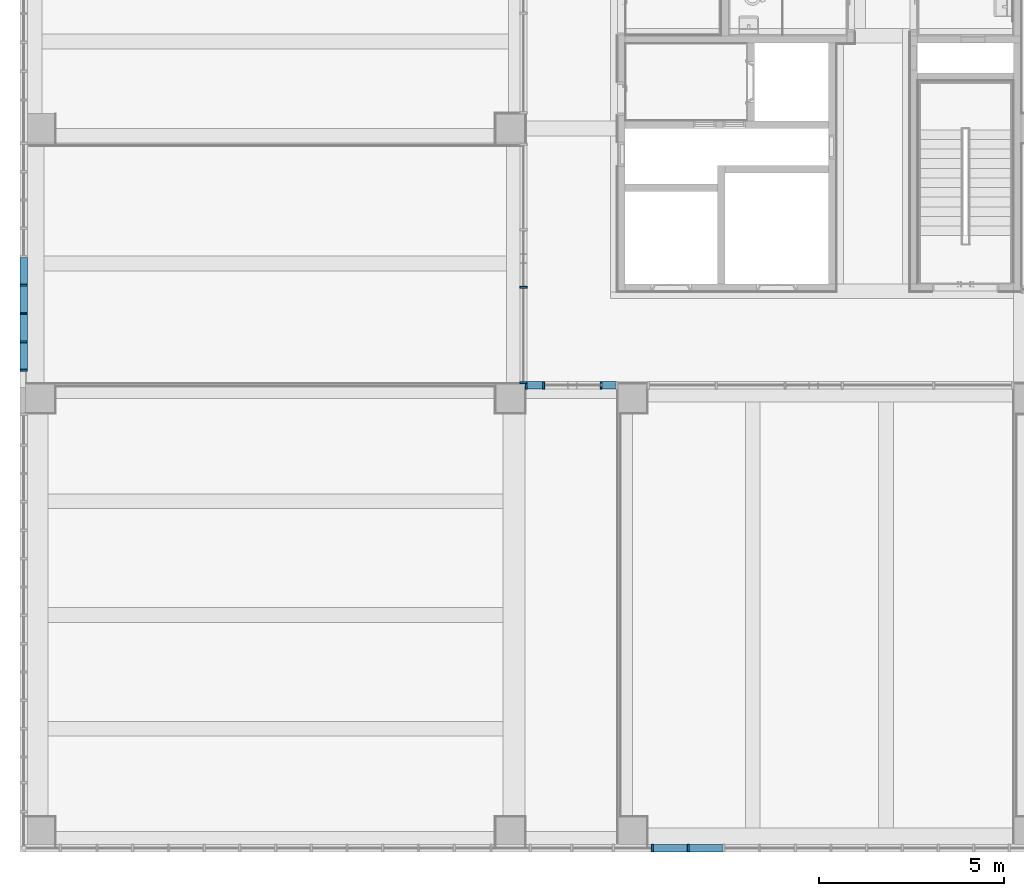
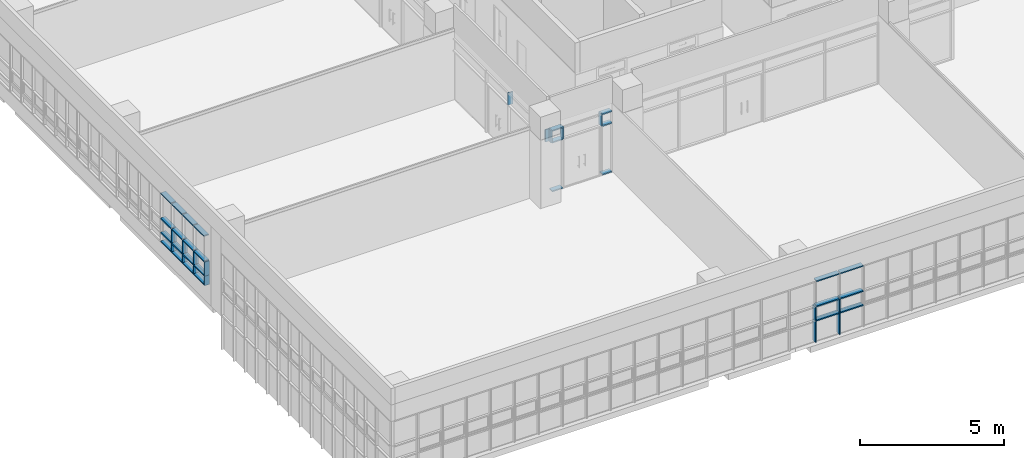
# One storey, part 13 of 81: 47 members, 4 elements without a shape of their own.
"""IFC2X3 building model written with IfcOpenShell, lengths in millimetres."""

import ifcopenshell
import ifcopenshell.guid

model = None  # the IFC model being written
_history = None  # IfcOwnerHistory: only IFC2X3 demands one
_inside = {}  # id of a spatial element -> (the spatial element, [elements in it])
_under = {}  # id of a project, library or spatial element -> (it, [spatial elements below it])
_declared = {}  # id of a project -> (the project, [libraries it declares])
_typed = {}  # id of a type object -> (the type object, [elements of that type])
_made_of = {}  # id of a material, layer set ... -> (it, [elements and type objects made of it])


def new_model(schema):
    """Start an empty IFC model of exactly this schema.

    Asked for "IFC4X3", IfcOpenShell would pick the latest addendum, in which some entities
    have other attributes; the version numbers below select the first issue.
    IFC2X3 requires an IfcOwnerHistory on every rooted entity: one is made here for all.
    """
    global model, _history
    if schema == "IFC4X3":
        model = ifcopenshell.file(schema_version=(4, 3, 0, 0))
    else:
        model = ifcopenshell.file(schema=schema)
    _inside.clear()
    _under.clear()
    _declared.clear()
    _typed.clear()
    _made_of.clear()
    _history = None
    if model.schema == "IFC2X3":
        org = make("IfcOrganization", Name="unknown")
        user = make(
            "IfcPersonAndOrganization",
            ThePerson=make("IfcPerson", FamilyName="unknown"),
            TheOrganization=org,
        )
        app = make(
            "IfcApplication",
            ApplicationDeveloper=org,
            Version="unknown",
            ApplicationFullName="unknown",
            ApplicationIdentifier="unknown",
        )
        _history = make(
            "IfcOwnerHistory",
            OwningUser=user,
            OwningApplication=app,
            ChangeAction="ADDED",
            CreationDate=0,
        )
    return model


def make(cls, **values):
    """One entity of the class cls with the attributes given. An attribute that is None is left unset."""
    return model.create_entity(
        cls, **{name: value for name, value in values.items() if value is not None}
    )


def entity(cls, *values):
    """Any entity or typed value of the class cls, its attributes in the order of the schema. None: left unset."""
    e = model.create_entity(cls)
    for i, value in enumerate(values):
        if value is not None:
            e[i] = value
    return e


def rooted(cls, **values):
    """An entity with a GlobalId (a new one), such as an element, a storey or a relation."""
    return make(cls, GlobalId=ifcopenshell.guid.new(), OwnerHistory=_history, **values)


def si_unit(unit_type, name, prefix=None):
    """IfcSIUnit, for example si_unit("LENGTHUNIT", "METRE", prefix="MILLI")."""
    return make("IfcSIUnit", UnitType=unit_type, Prefix=prefix, Name=name)


def converted_unit(unit_type, name, factor, base, dimensions=None, offset=None):
    """IfcConversionBasedUnit, such as the inch: factor (a typed value) times the base unit."""
    return make(
        "IfcConversionBasedUnit"
        if offset is None
        else "IfcConversionBasedUnitWithOffset",
        ConversionOffset=offset,
        Dimensions=None
        if dimensions is None
        else entity("IfcDimensionalExponents", *dimensions),
        UnitType=unit_type,
        Name=name,
        ConversionFactor=make(
            "IfcMeasureWithUnit", ValueComponent=factor, UnitComponent=base
        ),
    )


def derived_unit(unit_type, elements):
    """IfcDerivedUnit: a product of units, each with its exponent."""
    return make(
        "IfcDerivedUnit",
        Elements=[
            make("IfcDerivedUnitElement", Unit=unit, Exponent=power)
            for unit, power in elements
        ],
        UnitType=unit_type,
    )


def assignment(units):
    """IfcUnitAssignment: the units of a project."""
    return None if units is None else make("IfcUnitAssignment", Units=units)


def point(xyz):
    """IfcCartesianPoint."""
    return None if xyz is None else make("IfcCartesianPoint", Coordinates=xyz)


def direction(xyz):
    """IfcDirection."""
    return None if xyz is None else make("IfcDirection", DirectionRatios=xyz)


def frame(location, z_axis=None, x_axis=None):
    """IfcAxis2Placement3D, a coordinate frame: its origin and axes. An axis left out is left unset."""
    return make(
        "IfcAxis2Placement3D",
        Location=point(location),
        Axis=direction(z_axis),
        RefDirection=direction(x_axis),
    )


def frame_2d(location, x_axis=None):
    """IfcAxis2Placement2D, a coordinate frame in the plane: its origin and x axis."""
    return make(
        "IfcAxis2Placement2D", Location=point(location), RefDirection=direction(x_axis)
    )


def origin():
    """The frame at (0, 0, 0) with its axes left unset."""
    return frame((0.0, 0.0, 0.0))


def origin_2d_with_axis():
    """The frame at (0, 0) in the plane with the x axis (1, 0) written out."""
    return frame_2d((0.0, 0.0), x_axis=(1.0, 0.0))


def place(relative_to, where):
    """IfcLocalPlacement: puts the frame where relative to a parent placement (None: the world)."""
    return make(
        "IfcLocalPlacement", PlacementRelTo=relative_to, RelativePlacement=where
    )


def context(
    kind, dimensions, precision=None, world=None, true_north=None, identifier=None
):
    """IfcGeometricRepresentationContext, for example the 3D "Model" context."""
    return make(
        "IfcGeometricRepresentationContext",
        ContextIdentifier=identifier,
        ContextType=kind,
        CoordinateSpaceDimension=dimensions,
        Precision=precision,
        WorldCoordinateSystem=world,
        TrueNorth=true_north,
    )


def subcontext(parent, identifier, kind, view, scale=None):
    """IfcGeometricRepresentationSubContext, for example "Body" below "Model"."""
    return make(
        "IfcGeometricRepresentationSubContext",
        ContextIdentifier=identifier,
        ContextType=kind,
        ParentContext=parent,
        TargetScale=scale,
        TargetView=view,
    )


def project(units=None, contexts=None):
    """IfcProject with its units and contexts."""
    return rooted(
        "IfcProject",
        Name="project",
        RepresentationContexts=contexts,
        UnitsInContext=assignment(units),
    )


def spatial(cls, under=None, at=None, **own):
    """A site, building, storey or space (cls), placed at a placement, below another one or the project."""
    s = rooted(cls, ObjectPlacement=at, **own)
    if under is not None:
        _under.setdefault(under.id(), (under, []))[1].append(s)
    return s


def profile(cls, at=None, kind="AREA", **sizes):
    """A parametric profile (cls). Its sizes go by their IFC names, for example OverallWidth=200.0."""
    return make(cls, ProfileType=kind, Position=at, **sizes)


def rectangle(**sizes):
    """IfcRectangleProfileDef."""
    return profile("IfcRectangleProfileDef", **sizes)


def extrude(swept, where, along, depth):
    """IfcExtrudedAreaSolid: the profile swept, set in the frame where, extruded along a direction by depth."""
    return make(
        "IfcExtrudedAreaSolid",
        SweptArea=swept,
        Position=where,
        ExtrudedDirection=direction(along),
        Depth=depth,
    )


def shape(context_of_items, identifier, shape_type, items):
    """IfcShapeRepresentation: the items that make up one representation, for example the "Body"."""
    return make(
        "IfcShapeRepresentation",
        ContextOfItems=context_of_items,
        RepresentationIdentifier=identifier,
        RepresentationType=shape_type,
        Items=items,
    )


def source(mapping_origin, context_of_items, identifier, shape_type, items):
    """IfcRepresentationMap: a shape defined once, which mapped items show again and again."""
    return make(
        "IfcRepresentationMap",
        MappingOrigin=mapping_origin,
        MappedRepresentation=shape(context_of_items, identifier, shape_type, items),
    )


def transform(
    local_origin,
    x_axis=None,
    y_axis=None,
    z_axis=None,
    scale=None,
    scale2=None,
    scale3=None,
    uniform=True,
):
    """IfcCartesianTransformationOperator3D, or its non-uniform kind. x_axis, y_axis, z_axis: its Axis1, 2, 3."""
    if uniform:
        return make(
            "IfcCartesianTransformationOperator3D",
            Axis1=direction(x_axis),
            Axis2=direction(y_axis),
            LocalOrigin=point(local_origin),
            Scale=scale,
            Axis3=direction(z_axis),
        )
    return make(
        "IfcCartesianTransformationOperator3DnonUniform",
        Axis1=direction(x_axis),
        Axis2=direction(y_axis),
        LocalOrigin=point(local_origin),
        Scale=scale,
        Axis3=direction(z_axis),
        Scale2=scale2,
        Scale3=scale3,
    )


def mapped(mapping_source, mapping_target):
    """IfcMappedItem: shows the shape of a source again, moved by a transform."""
    return make(
        "IfcMappedItem", MappingSource=mapping_source, MappingTarget=mapping_target
    )


def material(Name=None, Category=None):
    """IfcMaterial."""
    return make("IfcMaterial", Name=Name, Category=Category)


def made_of(thing, what):
    """Note that an element or type object is made of a material, layer set ...; save() writes the relation."""
    if what is not None:
        _made_of.setdefault(what.id(), (what, []))[1].append(thing)
    return thing


def type_object(cls, material=None, **own):
    """A type object (cls), such as IfcWallType, which elements share."""
    return made_of(rooted(cls, **own), material)


def type_shapes(of_type, sources):
    """Give a type object the sources (RepresentationMaps) that its elements show as mapped items."""
    of_type.RepresentationMaps = sources


def element(
    cls,
    number,
    at=None,
    inside=None,
    cuts=None,
    type_object=None,
    material=None,
    context=None,
    identifier="Body",
    shape_type=None,
    held_by="IfcProductDefinitionShape",
    body=None,
    shapes=None,
    **own,
):
    """One element of the class cls, such as IfcWall. Its Tag is "e" and its number.

    at: its placement. inside: the storey or other place that contains it. cuts: it is an
    opening in that element (IfcRelVoidsElement). A single representation is given by context,
    identifier, shape_type and body (its items); several are given by shapes. held_by: the class
    of the entity that holds the representations. save() writes the other relations.
    """
    e = rooted(cls, Tag="e%d" % number, ObjectPlacement=at, **own)
    if body is not None:
        shapes = [shape(context, identifier, shape_type, body)]
    if shapes is not None:
        e.Representation = make(held_by, Representations=shapes)
    if inside is not None:
        _inside.setdefault(inside.id(), (inside, []))[1].append(e)
    if cuts is not None:
        rooted(
            "IfcRelVoidsElement", RelatingBuildingElement=cuts, RelatedOpeningElement=e
        )
    if type_object is not None:
        _typed.setdefault(type_object.id(), (type_object, []))[1].append(e)
    return made_of(e, material)


def aggregate(whole, parts):
    """IfcRelAggregates: a whole, such as a stair, and the parts it consists of."""
    return rooted("IfcRelAggregates", RelatingObject=whole, RelatedObjects=parts)


def save(model, path):
    """Write the relations noted so far, then the file.

    IfcRelAggregates (storeys below a building ...), IfcRelContainedInSpatialStructure (elements
    in a storey), IfcRelDefinesByType, IfcRelAssociatesMaterial and IfcRelDeclares: one each for
    every whole, place, type object, material and project.
    """
    for whole, parts in _under.values():
        aggregate(whole, parts)
    for where, things in _inside.values():
        rooted(
            "IfcRelContainedInSpatialStructure",
            RelatedElements=things,
            RelatingStructure=where,
        )
    for kind, things in _typed.values():
        rooted("IfcRelDefinesByType", RelatedObjects=things, RelatingType=kind)
    for what, things in _made_of.values():
        rooted("IfcRelAssociatesMaterial", RelatedObjects=things, RelatingMaterial=what)
    for by, libraries in _declared.values():
        rooted("IfcRelDeclares", RelatingContext=by, RelatedDefinitions=libraries)
    model.write(path)


model = new_model("IFC2X3")

# Units and contexts
model_context = context("Model", 3, precision=0.01, world=origin(), true_north=direction((6.123031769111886e-17, 1.0)))
body_context = subcontext(model_context, "Body", "Model", "MODEL_VIEW")
ifc_project = project(units=[si_unit("LENGTHUNIT", "METRE", prefix="MILLI"), si_unit("AREAUNIT", "SQUARE_METRE"), si_unit("VOLUMEUNIT", "CUBIC_METRE"), converted_unit("PLANEANGLEUNIT", "DEGREE", entity("IfcRatioMeasure", 0.017453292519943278), si_unit("PLANEANGLEUNIT", "RADIAN"), dimensions=[0, 0, 0, 0, 0, 0, 0]), si_unit("MASSUNIT", "GRAM", prefix="KILO"), derived_unit("MASSDENSITYUNIT", [(si_unit("MASSUNIT", "GRAM", prefix="KILO"), 1), (si_unit("LENGTHUNIT", "METRE"), -3)]), derived_unit("MOMENTOFINERTIAUNIT", [(si_unit("LENGTHUNIT", "METRE"), 4)]), si_unit("TIMEUNIT", "SECOND"), si_unit("FREQUENCYUNIT", "HERTZ"), si_unit("THERMODYNAMICTEMPERATUREUNIT", "DEGREE_CELSIUS"), derived_unit("THERMALTRANSMITTANCEUNIT", [(si_unit("MASSUNIT", "GRAM", prefix="KILO"), 1), (si_unit("THERMODYNAMICTEMPERATUREUNIT", "KELVIN"), -1), (si_unit("TIMEUNIT", "SECOND"), -3)]), derived_unit("VOLUMETRICFLOWRATEUNIT", [(si_unit("LENGTHUNIT", "METRE"), 3), (si_unit("TIMEUNIT", "SECOND"), -1)]), derived_unit("MASSFLOWRATEUNIT", [(si_unit("MASSUNIT", "GRAM", prefix="KILO"), 1), (si_unit("TIMEUNIT", "SECOND"), -1)]), derived_unit("ROTATIONALFREQUENCYUNIT", [(si_unit("TIMEUNIT", "SECOND"), -1)]), si_unit("ELECTRICCURRENTUNIT", "AMPERE"), si_unit("ELECTRICVOLTAGEUNIT", "VOLT"), si_unit("POWERUNIT", "WATT"), si_unit("FORCEUNIT", "NEWTON", prefix="KILO"), si_unit("ILLUMINANCEUNIT", "LUX"), si_unit("LUMINOUSFLUXUNIT", "LUMEN"), si_unit("LUMINOUSINTENSITYUNIT", "CANDELA"), derived_unit("USERDEFINED", [(si_unit("MASSUNIT", "GRAM", prefix="KILO"), -1), (si_unit("LENGTHUNIT", "METRE"), -2), (si_unit("TIMEUNIT", "SECOND"), 3), (si_unit("LUMINOUSFLUXUNIT", "LUMEN"), 1)]), derived_unit("SOUNDPOWERUNIT", [(si_unit("MASSUNIT", "GRAM", prefix="KILO"), 1), (si_unit("LENGTHUNIT", "METRE"), 2), (si_unit("TIMEUNIT", "SECOND"), -3)]), derived_unit("SOUNDPRESSUREUNIT", [(si_unit("MASSUNIT", "GRAM", prefix="KILO"), 1), (si_unit("LENGTHUNIT", "METRE"), -1), (si_unit("TIMEUNIT", "SECOND"), -2)]), derived_unit("LINEARVELOCITYUNIT", [(si_unit("LENGTHUNIT", "METRE"), 1), (si_unit("TIMEUNIT", "SECOND"), -1)]), si_unit("PRESSUREUNIT", "PASCAL"), derived_unit("USERDEFINED", [(si_unit("LENGTHUNIT", "METRE"), -2), (si_unit("MASSUNIT", "GRAM", prefix="KILO"), 1), (si_unit("TIMEUNIT", "SECOND"), -2)]), derived_unit("LINEARFORCEUNIT", [(si_unit("MASSUNIT", "GRAM", prefix="KILO"), 1), (si_unit("LENGTHUNIT", "METRE"), 1), (si_unit("TIMEUNIT", "SECOND"), -2), (si_unit("LENGTHUNIT", "METRE"), -1)]), derived_unit("PLANARFORCEUNIT", [(si_unit("MASSUNIT", "GRAM", prefix="KILO"), 1), (si_unit("LENGTHUNIT", "METRE"), 1), (si_unit("TIMEUNIT", "SECOND"), -2), (si_unit("LENGTHUNIT", "METRE"), -2)])], contexts=[model_context])

# Site, building, storey
site_placement = place(None, frame((-14167.972527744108, -657.2125860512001, 0.0)))
site = spatial("IfcSite", under=ifc_project, at=site_placement, Name="Default", CompositionType="ELEMENT")
building_placement = place(site_placement, origin())
building = spatial("IfcBuilding", under=site, at=building_placement, Name="Sample Building", CompositionType="ELEMENT")
storey_placement = place(building_placement, frame((0.0, 0.0, 13400.0)))
storey = spatial("IfcBuildingStorey", under=building, at=storey_placement, Name="지상 4층", CompositionType="ELEMENT", Elevation=13400.00000000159)

# Curtain wall, members
curtain_wall_type = type_object("IfcCurtainWallType", Name="커튼월:CW112-스테인리스 스틸 커튼월", PredefinedType="NOTDEFINED")
curtain_wall_1_placement = place(storey_placement, frame((0.0, 0.0, -13400.0)))
curtain_wall_1 = element("IfcCurtainWall", 1, at=curtain_wall_1_placement, inside=storey, type_object=curtain_wall_type, Name="커튼월:CW112-스테인리스 스틸 커튼월", ObjectType="커튼월:CW112-스테인리스 스틸 커튼월")
ifc_material = material(Name="<Unnamed>")
member_type_1 = type_object("IfcMemberType", Name="직사각형 멀리언:CW200-직사각형 멀리언 50x200mm", PredefinedType="MULLION", material=ifc_material)
shared_shape_1 = source(origin(), body_context, "Body", "SweptSolid", [
    extrude(rectangle(XDim=200.0, YDim=50.0, at=origin_2d_with_axis()), frame((0.0, 0.0, -600.0), z_axis=(0.0, 0.0, 1.0), x_axis=(0.0, -1.0, 0.0)), (0.0, 0.0, 1.0), 600.0),
])
type_shapes(member_type_1, [shared_shape_1])
member_1_placement = place(curtain_wall_1_placement, frame((14018.570555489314, 15721.31770709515, 14400.0), z_axis=(0.0, 0.0, -1.0), x_axis=(0.0, -1.0, 0.0)))
member_1 = element("IfcMember", 2, at=member_1_placement, type_object=member_type_1, material=ifc_material, Name="직사각형 멀리언:CW200-직사각형 멀리언 50x200mm", ObjectType="직사각형 멀리언:CW200-직사각형 멀리언 50x200mm", context=body_context, shape_type="MappedRepresentation", body=[
    mapped(shared_shape_1, transform((0.0, 0.0, 0.0), scale=1.0)),
])
member_2_placement = place(curtain_wall_1_placement, frame((14018.570555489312, 14954.817707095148, 14400.0), z_axis=(0.0, 0.0, -1.0), x_axis=(0.0, -1.0, 0.0)))
member_2 = element("IfcMember", 3, at=member_2_placement, type_object=member_type_1, material=ifc_material, Name="직사각형 멀리언:CW200-직사각형 멀리언 50x200mm", ObjectType="직사각형 멀리언:CW200-직사각형 멀리언 50x200mm", context=body_context, shape_type="MappedRepresentation", body=[
    mapped(shared_shape_1, transform((0.0, 0.0, 0.0), scale=1.0)),
])
member_3_placement = place(curtain_wall_1_placement, frame((14018.57055548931, 14188.317707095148, 14400.0), z_axis=(0.0, 0.0, -1.0), x_axis=(0.0, -1.0, 0.0)))
member_3 = element("IfcMember", 4, at=member_3_placement, type_object=member_type_1, material=ifc_material, Name="직사각형 멀리언:CW200-직사각형 멀리언 50x200mm", ObjectType="직사각형 멀리언:CW200-직사각형 멀리언 50x200mm", context=body_context, shape_type="MappedRepresentation", body=[
    mapped(shared_shape_1, transform((0.0, 0.0, 0.0), scale=1.0)),
])
member_4_placement = place(curtain_wall_1_placement, frame((14018.57055548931, 13421.817707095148, 14400.0), z_axis=(0.0, 0.0, -1.0), x_axis=(0.0, -1.0, 0.0)))
member_4 = element("IfcMember", 5, at=member_4_placement, type_object=member_type_1, material=ifc_material, Name="직사각형 멀리언:CW200-직사각형 멀리언 50x200mm", ObjectType="직사각형 멀리언:CW200-직사각형 멀리언 50x200mm", context=body_context, shape_type="MappedRepresentation", body=[
    mapped(shared_shape_1, transform((0.0, 0.0, 0.0), scale=1.0)),
])

curtain_wall_2_placement = place(storey_placement, frame((0.0, 0.0, -13400.0)))
curtain_wall_2 = element("IfcCurtainWall", 6, at=curtain_wall_2_placement, inside=storey, type_object=curtain_wall_type, Name="커튼월:CW112-스테인리스 스틸 커튼월", ObjectType="커튼월:CW112-스테인리스 스틸 커튼월")
member_5_placement = place(curtain_wall_2_placement, frame((31005.156070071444, 507.2122951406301, 14400.0), z_axis=(0.0, 0.0, -1.0), x_axis=(1.0, 0.0, 0.0)))
member_5 = element("IfcMember", 7, at=member_5_placement, type_object=member_type_1, material=ifc_material, Name="직사각형 멀리언:CW200-직사각형 멀리언 50x200mm", ObjectType="직사각형 멀리언:CW200-직사각형 멀리언 50x200mm", context=body_context, shape_type="MappedRepresentation", body=[
    mapped(shared_shape_1, transform((0.0, 0.0, 0.0), scale=1.0)),
])
member_6_placement = place(curtain_wall_2_placement, frame((31970.156070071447, 507.21229514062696, 14400.0), z_axis=(0.0, 0.0, -1.0), x_axis=(1.0, 0.0, 0.0)))
member_6 = element("IfcMember", 8, at=member_6_placement, type_object=member_type_1, material=ifc_material, Name="직사각형 멀리언:CW200-직사각형 멀리언 50x200mm", ObjectType="직사각형 멀리언:CW200-직사각형 멀리언 50x200mm", context=body_context, shape_type="MappedRepresentation", body=[
    mapped(shared_shape_1, transform((0.0, 0.0, 0.0), scale=1.0)),
])

curtain_wall_3_placement = place(storey_placement, frame((0.0, 0.0, -13400.0)))
curtain_wall_3 = element("IfcCurtainWall", 9, at=curtain_wall_3_placement, inside=storey, type_object=curtain_wall_type, Name="커튼월:CW112-스테인리스 스틸 커튼월", ObjectType="커튼월:CW112-스테인리스 스틸 커튼월")
member_type_2 = type_object("IfcMemberType", Name="직사각형 멀리언:CW200-직사각형 멀리언 50x200mm", PredefinedType="MULLION", material=ifc_material)
shared_shape_2 = source(origin(), body_context, "Body", "SweptSolid", [
    extrude(rectangle(XDim=200.0, YDim=50.0, at=origin_2d_with_axis()), frame((-25.0, 0.0, -520.0), z_axis=(0.0, 0.0, 1.0), x_axis=(0.0, -1.0, 0.0)), (0.0, 0.0, 1.0), 520.0000000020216),
])
type_shapes(member_type_2, [shared_shape_2])
member_7_placement = place(curtain_wall_3_placement, frame((27522.95510516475, 13057.21261703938, 15580.0), z_axis=(0.0, 0.0, -1.0), x_axis=(0.0, -1.0, 0.0)))
member_7 = element("IfcMember", 10, at=member_7_placement, type_object=member_type_2, material=ifc_material, Name="직사각형 멀리언:CW200-직사각형 멀리언 50x200mm", ObjectType="직사각형 멀리언:CW200-직사각형 멀리언 50x200mm", context=body_context, shape_type="MappedRepresentation", body=[
    mapped(shared_shape_2, transform((0.0, 0.0, 0.0), scale=1.0)),
])
member_type_3 = type_object("IfcMemberType", Name="직사각형 멀리언:CW200-직사각형 멀리언 50x200mm", PredefinedType="MULLION", material=ifc_material)
shared_shape_3 = source(origin(), body_context, "Body", "SweptSolid", [
    extrude(rectangle(XDim=200.0, YDim=50.0, at=origin_2d_with_axis()), frame((0.0, 0.0, -520.0), z_axis=(0.0, 0.0, 1.0), x_axis=(0.0, -1.0, 0.0)), (0.0, 0.0, 1.0), 520.0000000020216),
])
type_shapes(member_type_3, [shared_shape_3])
member_8_placement = place(curtain_wall_3_placement, frame((27522.955105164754, 15667.177624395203, 15580.0), z_axis=(0.0, 0.0, -1.0), x_axis=(0.0, -1.0, 0.0)))
member_8 = element("IfcMember", 11, at=member_8_placement, type_object=member_type_3, material=ifc_material, Name="직사각형 멀리언:CW200-직사각형 멀리언 50x200mm", ObjectType="직사각형 멀리언:CW200-직사각형 멀리언 50x200mm", context=body_context, shape_type="MappedRepresentation", body=[
    mapped(shared_shape_3, transform((0.0, 0.0, 0.0), scale=1.0)),
])
aggregate(curtain_wall_3, [member_7, member_8])

curtain_wall_4_placement = place(storey_placement, frame((0.0, 0.0, -13400.0)))
curtain_wall_4 = element("IfcCurtainWall", 12, at=curtain_wall_4_placement, inside=storey, type_object=curtain_wall_type, Name="커튼월:CW112-스테인리스 스틸 커튼월", ObjectType="커튼월:CW112-스테인리스 스틸 커튼월")
member_type_4 = type_object("IfcMemberType", Name="직사각형 멀리언:CW200-직사각형 멀리언 50x200mm", PredefinedType="MULLION", material=ifc_material)
shared_shape_4 = source(origin(), body_context, "Body", "SweptSolid", [
    extrude(rectangle(XDim=200.0, YDim=50.0, at=origin_2d_with_axis()), frame((-25.0, 0.0, -423.1454999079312), z_axis=(0.0, 0.0, 1.0), x_axis=(0.0, -1.0, 0.0)), (0.0, 0.0, 1.0), 423.1454999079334),
])
type_shapes(member_type_4, [shared_shape_4])
member_9_placement = place(curtain_wall_4_placement, frame((27617.920421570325, 13012.212307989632, 16100.0), z_axis=(-1.0, 0.0, 0.0), x_axis=(0.0, 0.0, 1.0)))
member_9 = element("IfcMember", 13, at=member_9_placement, type_object=member_type_4, material=ifc_material, Name="직사각형 멀리언:CW200-직사각형 멀리언 50x200mm", ObjectType="직사각형 멀리언:CW200-직사각형 멀리언 50x200mm", context=body_context, shape_type="MappedRepresentation", body=[
    mapped(shared_shape_4, transform((0.0, 0.0, 0.0), scale=1.0)),
])
member_type_5 = type_object("IfcMemberType", Name="직사각형 멀리언:CW200-직사각형 멀리언 50x200mm", PredefinedType="MULLION", material=ifc_material)
shared_shape_5 = source(origin(), body_context, "Body", "SweptSolid", [
    extrude(rectangle(XDim=200.0, YDim=50.0, at=origin_2d_with_axis()), frame((-25.0, 0.0, -376.8292998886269), z_axis=(0.0, 0.0, 1.0), x_axis=(0.0, -1.0, 0.0)), (0.0, 0.0, 1.0), 376.82929988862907),
])
type_shapes(member_type_5, [shared_shape_5])
member_10_placement = place(curtain_wall_4_placement, frame((30017.95511434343, 13012.212307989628, 13480.0), z_axis=(1.0, 0.0, 0.0), x_axis=(0.0, 0.0, -1.0)))
member_10 = element("IfcMember", 14, at=member_10_placement, type_object=member_type_5, material=ifc_material, Name="직사각형 멀리언:CW200-직사각형 멀리언 50x200mm", ObjectType="직사각형 멀리언:CW200-직사각형 멀리언 50x200mm", context=body_context, shape_type="MappedRepresentation", body=[
    mapped(shared_shape_5, transform((0.0, 0.0, 0.0), scale=1.0)),
])
member_type_6 = type_object("IfcMemberType", Name="직사각형 멀리언:CW200-직사각형 멀리언 50x200mm", PredefinedType="MULLION", material=ifc_material)
shared_shape_6 = source(origin(), body_context, "Body", "SweptSolid", [
    extrude(rectangle(XDim=200.0, YDim=50.0, at=origin_2d_with_axis()), frame((0.0, 0.0, -376.8466492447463), z_axis=(0.0, 0.0, 1.0), x_axis=(0.0, -1.0, 0.0)), (0.0, 0.0, 1.0), 376.8466492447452),
])
type_shapes(member_type_6, [shared_shape_6])
member_11_placement = place(curtain_wall_4_placement, frame((29641.09113086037, 13012.212307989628, 15580.0), z_axis=(-1.0, 0.0, 0.0), x_axis=(0.0, 0.0, 1.0)))
member_11 = element("IfcMember", 15, at=member_11_placement, type_object=member_type_6, material=ifc_material, Name="직사각형 멀리언:CW200-직사각형 멀리언 50x200mm", ObjectType="직사각형 멀리언:CW200-직사각형 멀리언 50x200mm", context=body_context, shape_type="MappedRepresentation", body=[
    mapped(shared_shape_6, transform((0.0, 0.0, 0.0), scale=1.0)),
])
member_type_7 = type_object("IfcMemberType", Name="직사각형 멀리언:CW200-직사각형 멀리언 50x200mm", PredefinedType="MULLION", material=ifc_material)
shared_shape_7 = source(origin(), body_context, "Body", "SweptSolid", [
    extrude(rectangle(XDim=200.0, YDim=50.0, at=origin_2d_with_axis()), frame((-25.0, 0.0, -376.8466492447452), z_axis=(0.0, 0.0, 1.0), x_axis=(0.0, -1.0, 0.0)), (0.0, 0.0, 1.0), 376.8466492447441),
])
type_shapes(member_type_7, [shared_shape_7])
member_12_placement = place(curtain_wall_4_placement, frame((29641.09113086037, 13012.212307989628, 16100.0), z_axis=(-1.0, 0.0, 0.0), x_axis=(0.0, 0.0, 1.0)))
member_12 = element("IfcMember", 16, at=member_12_placement, type_object=member_type_7, material=ifc_material, Name="직사각형 멀리언:CW200-직사각형 멀리언 50x200mm", ObjectType="직사각형 멀리언:CW200-직사각형 멀리언 50x200mm", context=body_context, shape_type="MappedRepresentation", body=[
    mapped(shared_shape_7, transform((0.0, 0.0, 0.0), scale=1.0)),
])
member_type_8 = type_object("IfcMemberType", Name="직사각형 멀리언:CW200-직사각형 멀리언 50x200mm", PredefinedType="MULLION", material=ifc_material)
shared_shape_8 = source(origin(), body_context, "Body", "SweptSolid", [
    extrude(rectangle(XDim=200.0, YDim=50.0, at=origin_2d_with_axis()), frame((-25.0, 0.0, -423.1454999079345), z_axis=(0.0, 0.0, 1.0), x_axis=(0.0, -1.0, 0.0)), (0.0, 0.0, 1.0), 423.1454999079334),
])
type_shapes(member_type_8, [shared_shape_8])
member_13_placement = place(curtain_wall_4_placement, frame((28041.091130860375, 13012.21230798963, 13480.0), z_axis=(1.0, 0.0, 0.0), x_axis=(0.0, 0.0, -1.0)))
member_13 = element("IfcMember", 17, at=member_13_placement, type_object=member_type_8, material=ifc_material, Name="직사각형 멀리언:CW200-직사각형 멀리언 50x200mm", ObjectType="직사각형 멀리언:CW200-직사각형 멀리언 50x200mm", context=body_context, shape_type="MappedRepresentation", body=[
    mapped(shared_shape_8, transform((0.0, 0.0, 0.0), scale=1.0)),
])
member_type_9 = type_object("IfcMemberType", Name="직사각형 멀리언:CW200-직사각형 멀리언 50x200mm", PredefinedType="MULLION", material=ifc_material)
shared_shape_9 = source(origin(), body_context, "Body", "SweptSolid", [
    extrude(rectangle(XDim=200.0, YDim=50.0, at=origin_2d_with_axis()), frame((0.0, 0.0, -423.1454999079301), z_axis=(0.0, 0.0, 1.0), x_axis=(0.0, -1.0, 0.0)), (0.0, 0.0, 1.0), 423.1454999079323),
])
type_shapes(member_type_9, [shared_shape_9])
member_14_placement = place(curtain_wall_4_placement, frame((27617.920421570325, 13012.212307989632, 15580.0), z_axis=(-1.0, 0.0, 0.0), x_axis=(0.0, 0.0, 1.0)))
member_14 = element("IfcMember", 18, at=member_14_placement, type_object=member_type_9, material=ifc_material, Name="직사각형 멀리언:CW200-직사각형 멀리언 50x200mm", ObjectType="직사각형 멀리언:CW200-직사각형 멀리언 50x200mm", context=body_context, shape_type="MappedRepresentation", body=[
    mapped(shared_shape_9, transform((0.0, 0.0, 0.0), scale=1.0)),
])
member_type_10 = type_object("IfcMemberType", Name="직사각형 멀리언:CW200-직사각형 멀리언 50x200mm", PredefinedType="MULLION", material=ifc_material)
shared_shape_10 = source(origin(), body_context, "Body", "SweptSolid", [
    extrude(rectangle(XDim=200.0, YDim=50.0, at=origin_2d_with_axis()), frame((-25.0, 0.0, -520.0), z_axis=(0.0, 0.0, 1.0), x_axis=(0.0, -1.0, 0.0)), (0.0, 0.0, 1.0), 520.0000000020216),
])
type_shapes(member_type_10, [shared_shape_10])
member_15_placement = place(curtain_wall_4_placement, frame((27567.92042157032, 13012.212307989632, 15580.0), z_axis=(0.0, 0.0, -1.0), x_axis=(-1.0, 0.0, 0.0)))
member_15 = element("IfcMember", 19, at=member_15_placement, type_object=member_type_10, material=ifc_material, Name="직사각형 멀리언:CW200-직사각형 멀리언 50x200mm", ObjectType="직사각형 멀리언:CW200-직사각형 멀리언 50x200mm", context=body_context, shape_type="MappedRepresentation", body=[
    mapped(shared_shape_10, transform((0.0, 0.0, 0.0), scale=1.0)),
])
member_type_11 = type_object("IfcMemberType", Name="직사각형 멀리언:CW200-직사각형 멀리언 50x200mm", PredefinedType="MULLION", material=ifc_material)
shared_shape_11 = source(origin(), body_context, "Body", "SweptSolid", [
    extrude(rectangle(XDim=200.0, YDim=50.0, at=origin_2d_with_axis()), frame((0.0, 0.0, -520.0), z_axis=(0.0, 0.0, 1.0), x_axis=(0.0, -1.0, 0.0)), (0.0, 0.0, 1.0), 520.0000000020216),
])
type_shapes(member_type_11, [shared_shape_11])
member_16_placement = place(curtain_wall_4_placement, frame((29616.09113086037, 13012.212307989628, 15580.0), z_axis=(0.0, 0.0, -1.0), x_axis=(-1.0, 0.0, 0.0)))
member_16 = element("IfcMember", 20, at=member_16_placement, type_object=member_type_11, material=ifc_material, Name="직사각형 멀리언:CW200-직사각형 멀리언 50x200mm", ObjectType="직사각형 멀리언:CW200-직사각형 멀리언 50x200mm", context=body_context, shape_type="MappedRepresentation", body=[
    mapped(shared_shape_11, transform((0.0, 0.0, 0.0), scale=1.0)),
])
member_17_placement = place(curtain_wall_4_placement, frame((28066.091130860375, 13012.21230798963, 15580.0), z_axis=(0.0, 0.0, -1.0), x_axis=(-1.0, 0.0, 0.0)))
member_17 = element("IfcMember", 21, at=member_17_placement, type_object=member_type_11, material=ifc_material, Name="직사각형 멀리언:CW200-직사각형 멀리언 50x200mm", ObjectType="직사각형 멀리언:CW200-직사각형 멀리언 50x200mm", context=body_context, shape_type="MappedRepresentation", body=[
    mapped(shared_shape_11, transform((0.0, 0.0, 0.0), scale=1.0)),
])
aggregate(curtain_wall_4, [member_9, member_10, member_15, member_11, member_12, member_16, member_13, member_14, member_17])

# Member
member_type_12 = type_object("IfcMemberType", Name="직사각형 멀리언:CW200-직사각형 멀리언 50x200mm", PredefinedType="MULLION", material=ifc_material)
shared_shape_12 = source(origin(), body_context, "Body", "SweptSolid", [
    extrude(rectangle(XDim=200.0, YDim=50.0, at=origin_2d_with_axis()), frame((-25.0, 0.0, -400.0), z_axis=(0.0, 0.0, 1.0), x_axis=(0.0, -1.0, 0.0)), (0.0, 0.0, 1.0), 399.9999999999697),
])
type_shapes(member_type_12, [shared_shape_12])
member_18_placement = place(curtain_wall_1_placement, frame((14018.57055548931, 13396.817707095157, 14000.0), z_axis=(0.0, 0.0, -1.0), x_axis=(0.0, -1.0, 0.0)))
member_18 = element("IfcMember", 22, at=member_18_placement, type_object=member_type_12, material=ifc_material, Name="직사각형 멀리언:CW200-직사각형 멀리언 50x200mm", ObjectType="직사각형 멀리언:CW200-직사각형 멀리언 50x200mm", context=body_context, shape_type="MappedRepresentation", body=[
    mapped(shared_shape_12, transform((0.0, 0.0, 0.0), scale=1.0)),
])

member_type_13 = type_object("IfcMemberType", Name="직사각형 멀리언:CW200-직사각형 멀리언 50x200mm", PredefinedType="MULLION", material=ifc_material)
shared_shape_13 = source(origin(), body_context, "Body", "SweptSolid", [
    extrude(rectangle(XDim=200.0, YDim=50.0, at=origin_2d_with_axis()), frame((-25.0, 0.0, -600.0), z_axis=(0.0, 0.0, 1.0), x_axis=(0.0, -1.0, 0.0)), (0.0, 0.0, 1.0), 600.0),
])
type_shapes(member_type_13, [shared_shape_13])
member_19_placement = place(curtain_wall_1_placement, frame((14018.57055548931, 13396.817707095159, 14400.0), z_axis=(0.0, 0.0, -1.0), x_axis=(0.0, -1.0, 0.0)))
member_19 = element("IfcMember", 23, at=member_19_placement, type_object=member_type_13, material=ifc_material, Name="직사각형 멀리언:CW200-직사각형 멀리언 50x200mm", ObjectType="직사각형 멀리언:CW200-직사각형 멀리언 50x200mm", context=body_context, shape_type="MappedRepresentation", body=[
    mapped(shared_shape_13, transform((0.0, 0.0, 0.0), scale=1.0)),
])

member_type_14 = type_object("IfcMemberType", Name="직사각형 멀리언:CW200-직사각형 멀리언 50x200mm", PredefinedType="MULLION", material=ifc_material)
shared_shape_14 = source(origin(), body_context, "Body", "SweptSolid", [
    extrude(rectangle(XDim=200.0, YDim=50.0, at=origin_2d_with_axis()), frame((0.0, 0.0, -400.0), z_axis=(0.0, 0.0, 1.0), x_axis=(0.0, -1.0, 0.0)), (0.0, 0.0, 1.0), 399.9999999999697),
])
type_shapes(member_type_14, [shared_shape_14])
member_20_placement = place(curtain_wall_1_placement, frame((14018.570555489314, 15721.31770709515, 14000.0), z_axis=(0.0, 0.0, -1.0), x_axis=(0.0, -1.0, 0.0)))
member_20 = element("IfcMember", 24, at=member_20_placement, type_object=member_type_14, material=ifc_material, Name="직사각형 멀리언:CW200-직사각형 멀리언 50x200mm", ObjectType="직사각형 멀리언:CW200-직사각형 멀리언 50x200mm", context=body_context, shape_type="MappedRepresentation", body=[
    mapped(shared_shape_14, transform((0.0, 0.0, 0.0), scale=1.0)),
])

member_21_placement = place(curtain_wall_1_placement, frame((14018.570555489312, 14954.817707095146, 14000.0), z_axis=(0.0, 0.0, -1.0), x_axis=(0.0, -1.0, 0.0)))
member_21 = element("IfcMember", 25, at=member_21_placement, type_object=member_type_14, material=ifc_material, Name="직사각형 멀리언:CW200-직사각형 멀리언 50x200mm", ObjectType="직사각형 멀리언:CW200-직사각형 멀리언 50x200mm", context=body_context, shape_type="MappedRepresentation", body=[
    mapped(shared_shape_14, transform((0.0, 0.0, 0.0), scale=1.0)),
])

member_22_placement = place(curtain_wall_1_placement, frame((14018.57055548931, 14188.317707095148, 14000.0), z_axis=(0.0, 0.0, -1.0), x_axis=(0.0, -1.0, 0.0)))
member_22 = element("IfcMember", 26, at=member_22_placement, type_object=member_type_14, material=ifc_material, Name="직사각형 멀리언:CW200-직사각형 멀리언 50x200mm", ObjectType="직사각형 멀리언:CW200-직사각형 멀리언 50x200mm", context=body_context, shape_type="MappedRepresentation", body=[
    mapped(shared_shape_14, transform((0.0, 0.0, 0.0), scale=1.0)),
])

member_23_placement = place(curtain_wall_1_placement, frame((14018.57055548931, 13421.817707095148, 14000.0), z_axis=(0.0, 0.0, -1.0), x_axis=(0.0, -1.0, 0.0)))
member_23 = element("IfcMember", 27, at=member_23_placement, type_object=member_type_14, material=ifc_material, Name="직사각형 멀리언:CW200-직사각형 멀리언 50x200mm", ObjectType="직사각형 멀리언:CW200-직사각형 멀리언 50x200mm", context=body_context, shape_type="MappedRepresentation", body=[
    mapped(shared_shape_14, transform((0.0, 0.0, 0.0), scale=1.0)),
])

member_type_15 = type_object("IfcMemberType", Name="직사각형 멀리언:CW200-직사각형 멀리언 50x200mm", PredefinedType="MULLION", material=ifc_material)
shared_shape_15 = source(origin(), body_context, "Body", "SweptSolid", [
    extrude(rectangle(XDim=200.0, YDim=50.0, at=origin_2d_with_axis()), frame((-25.0, 0.0, -716.4999999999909), z_axis=(0.0, 0.0, 1.0), x_axis=(0.0, -1.0, 0.0)), (0.0, 0.0, 1.0), 716.4999999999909),
])
type_shapes(member_type_15, [shared_shape_15])
member_24_placement = place(curtain_wall_1_placement, frame((14018.570555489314, 15746.31770709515, 16100.0), z_axis=(0.0, -1.0, 0.0), x_axis=(0.0, 0.0, 1.0)))
member_24 = element("IfcMember", 28, at=member_24_placement, type_object=member_type_15, material=ifc_material, Name="직사각형 멀리언:CW200-직사각형 멀리언 50x200mm", ObjectType="직사각형 멀리언:CW200-직사각형 멀리언 50x200mm", context=body_context, shape_type="MappedRepresentation", body=[
    mapped(shared_shape_15, transform((0.0, 0.0, 0.0), scale=1.0)),
])

member_25_placement = place(curtain_wall_1_placement, frame((14018.570555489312, 14979.817707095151, 16100.0), z_axis=(0.0, -1.0, 0.0), x_axis=(0.0, 0.0, 1.0)))
member_25 = element("IfcMember", 29, at=member_25_placement, type_object=member_type_15, material=ifc_material, Name="직사각형 멀리언:CW200-직사각형 멀리언 50x200mm", ObjectType="직사각형 멀리언:CW200-직사각형 멀리언 50x200mm", context=body_context, shape_type="MappedRepresentation", body=[
    mapped(shared_shape_15, transform((0.0, 0.0, 0.0), scale=1.0)),
])

member_26_placement = place(curtain_wall_1_placement, frame((14018.57055548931, 14213.317707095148, 16100.0), z_axis=(0.0, -1.0, 0.0), x_axis=(0.0, 0.0, 1.0)))
member_26 = element("IfcMember", 30, at=member_26_placement, type_object=member_type_15, material=ifc_material, Name="직사각형 멀리언:CW200-직사각형 멀리언 50x200mm", ObjectType="직사각형 멀리언:CW200-직사각형 멀리언 50x200mm", context=body_context, shape_type="MappedRepresentation", body=[
    mapped(shared_shape_15, transform((0.0, 0.0, 0.0), scale=1.0)),
])

member_27_placement = place(curtain_wall_1_placement, frame((14018.57055548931, 13446.817707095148, 16100.0), z_axis=(0.0, -1.0, 0.0), x_axis=(0.0, 0.0, 1.0)))
member_27 = element("IfcMember", 31, at=member_27_placement, type_object=member_type_15, material=ifc_material, Name="직사각형 멀리언:CW200-직사각형 멀리언 50x200mm", ObjectType="직사각형 멀리언:CW200-직사각형 멀리언 50x200mm", context=body_context, shape_type="MappedRepresentation", body=[
    mapped(shared_shape_15, transform((0.0, 0.0, 0.0), scale=1.0)),
])

member_type_16 = type_object("IfcMemberType", Name="직사각형 멀리언:CW200-직사각형 멀리언 50x200mm", PredefinedType="MULLION", material=ifc_material)
shared_shape_16 = source(origin(), body_context, "Body", "SweptSolid", [
    extrude(rectangle(XDim=200.0, YDim=50.0, at=origin_2d_with_axis()), frame((-25.0, 0.0, -716.4999999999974), z_axis=(0.0, 0.0, 1.0), x_axis=(0.0, -1.0, 0.0)), (0.0, 0.0, 1.0), 716.4999999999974),
])
type_shapes(member_type_16, [shared_shape_16])
member_28_placement = place(curtain_wall_1_placement, frame((14018.570555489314, 15696.31770709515, 14000.0), z_axis=(0.0, 1.0, 0.0), x_axis=(0.0, 0.0, -1.0)))
member_28 = element("IfcMember", 32, at=member_28_placement, type_object=member_type_16, material=ifc_material, Name="직사각형 멀리언:CW200-직사각형 멀리언 50x200mm", ObjectType="직사각형 멀리언:CW200-직사각형 멀리언 50x200mm", context=body_context, shape_type="MappedRepresentation", body=[
    mapped(shared_shape_16, transform((0.0, 0.0, 0.0), scale=1.0)),
])

member_29_placement = place(curtain_wall_1_placement, frame((14018.570555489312, 14929.817707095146, 14000.0), z_axis=(0.0, 1.0, 0.0), x_axis=(0.0, 0.0, -1.0)))
member_29 = element("IfcMember", 33, at=member_29_placement, type_object=member_type_16, material=ifc_material, Name="직사각형 멀리언:CW200-직사각형 멀리언 50x200mm", ObjectType="직사각형 멀리언:CW200-직사각형 멀리언 50x200mm", context=body_context, shape_type="MappedRepresentation", body=[
    mapped(shared_shape_16, transform((0.0, 0.0, 0.0), scale=1.0)),
])

member_30_placement = place(curtain_wall_1_placement, frame((14018.57055548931, 14163.317707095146, 14000.0), z_axis=(0.0, 1.0, 0.0), x_axis=(0.0, 0.0, -1.0)))
member_30 = element("IfcMember", 34, at=member_30_placement, type_object=member_type_16, material=ifc_material, Name="직사각형 멀리언:CW200-직사각형 멀리언 50x200mm", ObjectType="직사각형 멀리언:CW200-직사각형 멀리언 50x200mm", context=body_context, shape_type="MappedRepresentation", body=[
    mapped(shared_shape_16, transform((0.0, 0.0, 0.0), scale=1.0)),
])

member_31_placement = place(curtain_wall_1_placement, frame((14018.570555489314, 16462.81770709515, 14000.0), z_axis=(0.0, 1.0, 0.0), x_axis=(0.0, 0.0, -1.0)))
member_31 = element("IfcMember", 35, at=member_31_placement, type_object=member_type_16, material=ifc_material, Name="직사각형 멀리언:CW200-직사각형 멀리언 50x200mm", ObjectType="직사각형 멀리언:CW200-직사각형 멀리언 50x200mm", context=body_context, shape_type="MappedRepresentation", body=[
    mapped(shared_shape_16, transform((0.0, 0.0, 0.0), scale=1.0)),
])

member_type_17 = type_object("IfcMemberType", Name="직사각형 멀리언:CW200-직사각형 멀리언 50x200mm", PredefinedType="MULLION", material=ifc_material)
shared_shape_17 = source(origin(), body_context, "Body", "SweptSolid", [
    extrude(rectangle(XDim=200.0, YDim=50.0, at=origin_2d_with_axis()), frame((0.0, 0.0, -716.4999999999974), z_axis=(0.0, 0.0, 1.0), x_axis=(0.0, -1.0, 0.0)), (0.0, 0.0, 1.0), 716.4999999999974),
])
type_shapes(member_type_17, [shared_shape_17])
member_32_placement = place(curtain_wall_1_placement, frame((14018.570555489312, 14979.81770709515, 14400.0), z_axis=(0.0, -1.0, 0.0), x_axis=(0.0, 0.0, 1.0)))
member_32 = element("IfcMember", 36, at=member_32_placement, type_object=member_type_17, material=ifc_material, Name="직사각형 멀리언:CW200-직사각형 멀리언 50x200mm", ObjectType="직사각형 멀리언:CW200-직사각형 멀리언 50x200mm", context=body_context, shape_type="MappedRepresentation", body=[
    mapped(shared_shape_17, transform((0.0, 0.0, 0.0), scale=1.0)),
])

member_33_placement = place(curtain_wall_1_placement, frame((14018.570555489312, 14979.817707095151, 15000.0), z_axis=(0.0, -1.0, 0.0), x_axis=(0.0, 0.0, 1.0)))
member_33 = element("IfcMember", 37, at=member_33_placement, type_object=member_type_17, material=ifc_material, Name="직사각형 멀리언:CW200-직사각형 멀리언 50x200mm", ObjectType="직사각형 멀리언:CW200-직사각형 멀리언 50x200mm", context=body_context, shape_type="MappedRepresentation", body=[
    mapped(shared_shape_17, transform((0.0, 0.0, 0.0), scale=1.0)),
])

member_34_placement = place(curtain_wall_1_placement, frame((14018.57055548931, 14213.317707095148, 14400.0), z_axis=(0.0, -1.0, 0.0), x_axis=(0.0, 0.0, 1.0)))
member_34 = element("IfcMember", 38, at=member_34_placement, type_object=member_type_17, material=ifc_material, Name="직사각형 멀리언:CW200-직사각형 멀리언 50x200mm", ObjectType="직사각형 멀리언:CW200-직사각형 멀리언 50x200mm", context=body_context, shape_type="MappedRepresentation", body=[
    mapped(shared_shape_17, transform((0.0, 0.0, 0.0), scale=1.0)),
])

member_35_placement = place(curtain_wall_1_placement, frame((14018.57055548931, 14213.31770709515, 15000.0), z_axis=(0.0, -1.0, 0.0), x_axis=(0.0, 0.0, 1.0)))
member_35 = element("IfcMember", 39, at=member_35_placement, type_object=member_type_17, material=ifc_material, Name="직사각형 멀리언:CW200-직사각형 멀리언 50x200mm", ObjectType="직사각형 멀리언:CW200-직사각형 멀리언 50x200mm", context=body_context, shape_type="MappedRepresentation", body=[
    mapped(shared_shape_17, transform((0.0, 0.0, 0.0), scale=1.0)),
])

member_36_placement = place(curtain_wall_1_placement, frame((14018.57055548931, 13446.81770709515, 14400.0), z_axis=(0.0, -1.0, 0.0), x_axis=(0.0, 0.0, 1.0)))
member_36 = element("IfcMember", 40, at=member_36_placement, type_object=member_type_17, material=ifc_material, Name="직사각형 멀리언:CW200-직사각형 멀리언 50x200mm", ObjectType="직사각형 멀리언:CW200-직사각형 멀리언 50x200mm", context=body_context, shape_type="MappedRepresentation", body=[
    mapped(shared_shape_17, transform((0.0, 0.0, 0.0), scale=1.0)),
])

member_37_placement = place(curtain_wall_1_placement, frame((14018.57055548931, 13446.81770709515, 15000.0), z_axis=(0.0, -1.0, 0.0), x_axis=(0.0, 0.0, 1.0)))
member_37 = element("IfcMember", 41, at=member_37_placement, type_object=member_type_17, material=ifc_material, Name="직사각형 멀리언:CW200-직사각형 멀리언 50x200mm", ObjectType="직사각형 멀리언:CW200-직사각형 멀리언 50x200mm", context=body_context, shape_type="MappedRepresentation", body=[
    mapped(shared_shape_17, transform((0.0, 0.0, 0.0), scale=1.0)),
])

member_38_placement = place(curtain_wall_1_placement, frame((14018.570555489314, 15746.31770709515, 14400.0), z_axis=(0.0, -1.0, 0.0), x_axis=(0.0, 0.0, 1.0)))
member_38 = element("IfcMember", 42, at=member_38_placement, type_object=member_type_17, material=ifc_material, Name="직사각형 멀리언:CW200-직사각형 멀리언 50x200mm", ObjectType="직사각형 멀리언:CW200-직사각형 멀리언 50x200mm", context=body_context, shape_type="MappedRepresentation", body=[
    mapped(shared_shape_17, transform((0.0, 0.0, 0.0), scale=1.0)),
])

member_39_placement = place(curtain_wall_1_placement, frame((14018.570555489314, 15746.31770709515, 15000.0), z_axis=(0.0, -1.0, 0.0), x_axis=(0.0, 0.0, 1.0)))
member_39 = element("IfcMember", 43, at=member_39_placement, type_object=member_type_17, material=ifc_material, Name="직사각형 멀리언:CW200-직사각형 멀리언 50x200mm", ObjectType="직사각형 멀리언:CW200-직사각형 멀리언 50x200mm", context=body_context, shape_type="MappedRepresentation", body=[
    mapped(shared_shape_17, transform((0.0, 0.0, 0.0), scale=1.0)),
])

aggregate(curtain_wall_1, [member_18, member_19, member_24, member_28, member_32, member_33, member_20, member_1, member_25, member_29, member_34, member_35, member_26, member_30, member_36, member_37, member_21, member_2, member_22, member_3, member_31, member_38, member_39, member_27, member_23, member_4])

member_type_18 = type_object("IfcMemberType", Name="직사각형 멀리언:CW200-직사각형 멀리언 50x200mm", PredefinedType="MULLION", material=ifc_material)
shared_shape_18 = source(origin(), body_context, "Body", "SweptSolid", [
    extrude(rectangle(XDim=200.0, YDim=50.0, at=origin_2d_with_axis()), frame((0.0, 0.0, -915.0), z_axis=(0.0, 0.0, 1.0), x_axis=(0.0, -1.0, 0.0)), (0.0, 0.0, 1.0), 915.000000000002),
])
type_shapes(member_type_18, [shared_shape_18])
member_40_placement = place(curtain_wall_2_placement, frame((31945.156070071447, 507.2122951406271, 14400.0), z_axis=(1.0, 0.0, 0.0), x_axis=(0.0, 0.0, 1.0)))
member_40 = element("IfcMember", 44, at=member_40_placement, type_object=member_type_18, material=ifc_material, Name="직사각형 멀리언:CW200-직사각형 멀리언 50x200mm", ObjectType="직사각형 멀리언:CW200-직사각형 멀리언 50x200mm", context=body_context, shape_type="MappedRepresentation", body=[
    mapped(shared_shape_18, transform((0.0, 0.0, 0.0), scale=1.0)),
])

member_41_placement = place(curtain_wall_2_placement, frame((32910.156070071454, 507.2122951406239, 14400.0), z_axis=(1.0, 0.0, 0.0), x_axis=(0.0, 0.0, 1.0)))
member_41 = element("IfcMember", 45, at=member_41_placement, type_object=member_type_18, material=ifc_material, Name="직사각형 멀리언:CW200-직사각형 멀리언 50x200mm", ObjectType="직사각형 멀리언:CW200-직사각형 멀리언 50x200mm", context=body_context, shape_type="MappedRepresentation", body=[
    mapped(shared_shape_18, transform((0.0, 0.0, 0.0), scale=1.0)),
])

member_42_placement = place(curtain_wall_2_placement, frame((31945.156070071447, 507.2122951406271, 15000.0), z_axis=(1.0, 0.0, 0.0), x_axis=(0.0, 0.0, 1.0)))
member_42 = element("IfcMember", 46, at=member_42_placement, type_object=member_type_18, material=ifc_material, Name="직사각형 멀리언:CW200-직사각형 멀리언 50x200mm", ObjectType="직사각형 멀리언:CW200-직사각형 멀리언 50x200mm", context=body_context, shape_type="MappedRepresentation", body=[
    mapped(shared_shape_18, transform((0.0, 0.0, 0.0), scale=1.0)),
])

member_43_placement = place(curtain_wall_2_placement, frame((32910.156070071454, 507.2122951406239, 15000.0), z_axis=(1.0, 0.0, 0.0), x_axis=(0.0, 0.0, 1.0)))
member_43 = element("IfcMember", 47, at=member_43_placement, type_object=member_type_18, material=ifc_material, Name="직사각형 멀리언:CW200-직사각형 멀리언 50x200mm", ObjectType="직사각형 멀리언:CW200-직사각형 멀리언 50x200mm", context=body_context, shape_type="MappedRepresentation", body=[
    mapped(shared_shape_18, transform((0.0, 0.0, 0.0), scale=1.0)),
])

member_type_19 = type_object("IfcMemberType", Name="직사각형 멀리언:CW200-직사각형 멀리언 50x200mm", PredefinedType="MULLION", material=ifc_material)
shared_shape_19 = source(origin(), body_context, "Body", "SweptSolid", [
    extrude(rectangle(XDim=200.0, YDim=50.0, at=origin_2d_with_axis()), frame((-25.0, 0.0, -915.0), z_axis=(0.0, 0.0, 1.0), x_axis=(0.0, -1.0, 0.0)), (0.0, 0.0, 1.0), 914.9999999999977),
])
type_shapes(member_type_19, [shared_shape_19])
member_44_placement = place(curtain_wall_2_placement, frame((31945.156070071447, 507.2122951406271, 16100.0), z_axis=(1.0, 0.0, 0.0), x_axis=(0.0, 0.0, 1.0)))
member_44 = element("IfcMember", 48, at=member_44_placement, type_object=member_type_19, material=ifc_material, Name="직사각형 멀리언:CW200-직사각형 멀리언 50x200mm", ObjectType="직사각형 멀리언:CW200-직사각형 멀리언 50x200mm", context=body_context, shape_type="MappedRepresentation", body=[
    mapped(shared_shape_19, transform((0.0, 0.0, 0.0), scale=1.0)),
])

member_45_placement = place(curtain_wall_2_placement, frame((32910.156070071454, 507.2122951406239, 16100.0), z_axis=(1.0, 0.0, 0.0), x_axis=(0.0, 0.0, 1.0)))
member_45 = element("IfcMember", 49, at=member_45_placement, type_object=member_type_19, material=ifc_material, Name="직사각형 멀리언:CW200-직사각형 멀리언 50x200mm", ObjectType="직사각형 멀리언:CW200-직사각형 멀리언 50x200mm", context=body_context, shape_type="MappedRepresentation", body=[
    mapped(shared_shape_19, transform((0.0, 0.0, 0.0), scale=1.0)),
])

member_type_20 = type_object("IfcMemberType", Name="직사각형 멀리언:CW200-직사각형 멀리언 50x200mm", PredefinedType="MULLION", material=ifc_material)
shared_shape_20 = source(origin(), body_context, "Body", "SweptSolid", [
    extrude(rectangle(XDim=200.0, YDim=50.0, at=origin_2d_with_axis()), frame((0.0, 0.0, -920.0), z_axis=(0.0, 0.0, 1.0), x_axis=(0.0, -1.0, 0.0)), (0.0, 0.0, 1.0), 919.9999999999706),
])
type_shapes(member_type_20, [shared_shape_20])
member_46_placement = place(curtain_wall_2_placement, frame((31005.156070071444, 507.2122951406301, 13480.0), z_axis=(0.0, 0.0, -1.0), x_axis=(1.0, 0.0, 0.0)))
member_46 = element("IfcMember", 50, at=member_46_placement, type_object=member_type_20, material=ifc_material, Name="직사각형 멀리언:CW200-직사각형 멀리언 50x200mm", ObjectType="직사각형 멀리언:CW200-직사각형 멀리언 50x200mm", context=body_context, shape_type="MappedRepresentation", body=[
    mapped(shared_shape_20, transform((0.0, 0.0, 0.0), scale=1.0)),
])

member_47_placement = place(curtain_wall_2_placement, frame((31970.156070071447, 507.21229514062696, 13480.0), z_axis=(0.0, 0.0, -1.0), x_axis=(1.0, 0.0, 0.0)))
member_47 = element("IfcMember", 51, at=member_47_placement, type_object=member_type_20, material=ifc_material, Name="직사각형 멀리언:CW200-직사각형 멀리언 50x200mm", ObjectType="직사각형 멀리언:CW200-직사각형 멀리언 50x200mm", context=body_context, shape_type="MappedRepresentation", body=[
    mapped(shared_shape_20, transform((0.0, 0.0, 0.0), scale=1.0)),
])

aggregate(curtain_wall_2, [member_44, member_45, member_40, member_41, member_42, member_43, member_46, member_47, member_5, member_6])

save(model, "model.ifc")
